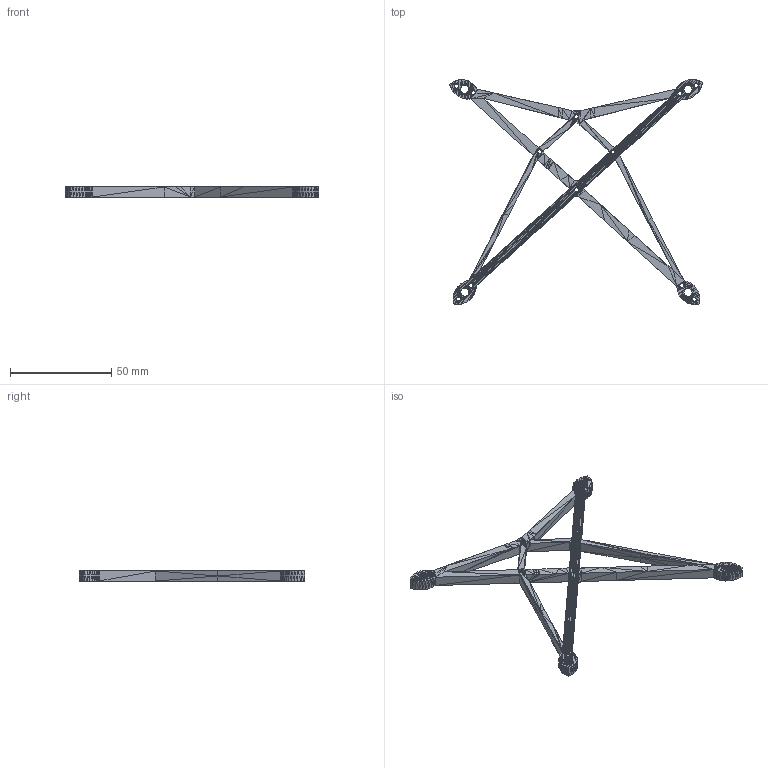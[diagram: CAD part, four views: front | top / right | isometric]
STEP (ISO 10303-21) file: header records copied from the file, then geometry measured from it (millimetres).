
FILE_DESCRIPTION(/* description */ (''),/* implementation_level */ '2;1');
FILE_NAME(/* name */ 'nlr35cf v3.step',/* time_stamp */ '2023-02-20T10:08:47+01:00',/* author */ (''),/* organization */ (''),/* preprocessor_version */ 'ST-DEVELOPER v19.2',/* originating_system */ 'Autodesk Translation Framework v11.17.0.187',/* authorisation */ '');
FILE_SCHEMA (('AUTOMOTIVE_DESIGN { 1 0 10303 214 3 1 1 }'));
Products named in the file (1): nlr35cf
Bounding box: 124.71 x 111.03 x 5 mm (x, y, z)
Volume: 12045.5 mm3; surface area: 11207 mm2
Topology: 1 solids, 1 shells, 3752 faces, 5628 edges, 1836 vertices
Faces by surface type: plane 3752
Entity records: 73125 total; most frequent: DIRECTION 13134, ORIENTED_EDGE 11256, CARTESIAN_POINT 11217, LINE 5628, VECTOR 5628, EDGE_CURVE 5628, AXIS2_PLACEMENT_3D 3753, FACE_OUTER_BOUND 3752
